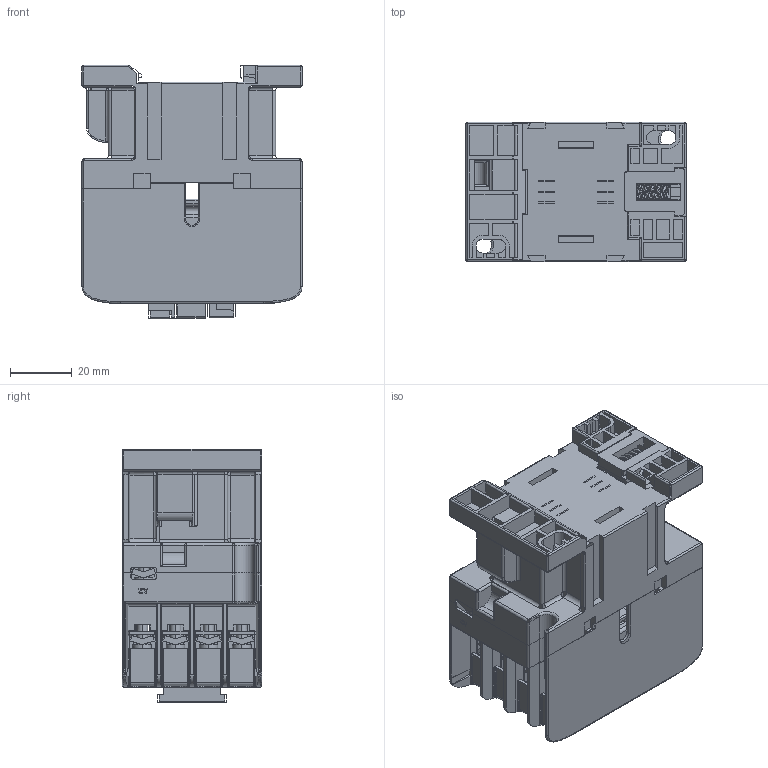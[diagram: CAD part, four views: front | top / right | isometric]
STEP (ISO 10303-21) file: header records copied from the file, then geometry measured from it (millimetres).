
FILE_DESCRIPTION((''),'2;1');
FILE_NAME('2TZD_401_1017_SW0003','2022-04-09T',('wangchen1'),(''),'PRO/ENGINEER BY PARAMETRIC TECHNOLOGY CORPORATION, 2017170','PRO/ENGINEER BY PARAMETRIC TECHNOLOGY CORPORATION, 2017170','');
FILE_SCHEMA(('CONFIG_CONTROL_DESIGN'));
Products named in the file (1): 2TZD_401_1017_SW0003
Bounding box: 71 x 45 x 81.75 mm (x, y, z)
Surface area: 85562.5 mm2 (no closed solid volume)
Topology: 0 solids, 103 shells, 1987 faces, 10733 edges, 8456 vertices
Faces by surface type: plane 1511, cylinder 399, sphere 22, cone 20, bspline 18, torus 17
Entity records: 126123 total; most frequent: CARTESIAN_POINT 31163, ORIENTED_EDGE 15363, DIRECTION 15082, EDGE_CURVE 10733, VERTEX_POINT 8456, VECTOR 8422, LINE 8422, AXIS2_PLACEMENT_3D 3330
